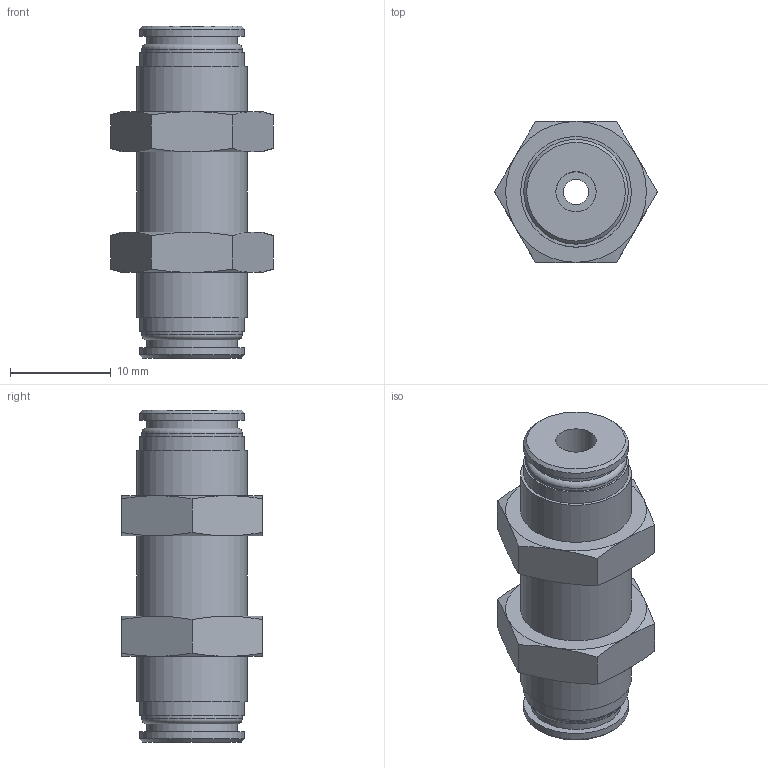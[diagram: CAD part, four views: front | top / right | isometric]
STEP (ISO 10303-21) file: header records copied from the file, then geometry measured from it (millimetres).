
FILE_DESCRIPTION(/* description */ (''),/* implementation_level */ '2;1');
FILE_NAME(/* name */ 'LXH13 0404 00.stp',/* time_stamp */ '2025-07-30T12:17:30+02:00',/* author */ ('freju'),/* organization */ (''),/* preprocessor_version */ 'ST-DEVELOPER v20.1',/* originating_system */ 'Autodesk Inventor 2026',/* authorisation */ '');
FILE_SCHEMA (('AUTOMOTIVE_DESIGN { 1 0 10303 214 3 1 1 }'));
Length unit declared in the file: millimetre
Products named in the file (1): LXH13 0404 00
Bounding box: 16.17 x 14 x 33 mm (x, y, z)
Volume: 3209.2 mm3; surface area: 2145.7 mm2
Topology: 1 solids, 1 shells, 68 faces, 138 edges, 84 vertices
Faces by surface type: cone 26, plane 26, cylinder 14, torus 2
Full cylindrical faces by diameter (mm): 2.5 x1, 4 x2, 9 x2, 10 x2, 10.4 x4, 11 x3
Entity records: 1771 total; most frequent: CARTESIAN_POINT 387, DIRECTION 290, ORIENTED_EDGE 276, EDGE_CURVE 138, AXIS2_PLACEMENT_3D 131, VERTEX_POINT 84, EDGE_LOOP 82, FACE_OUTER_BOUND 68
